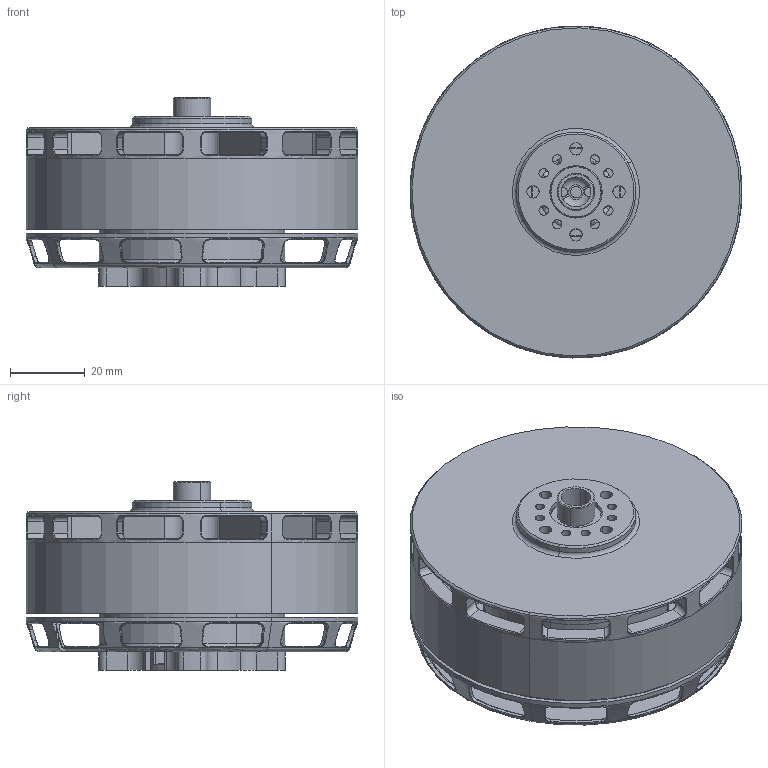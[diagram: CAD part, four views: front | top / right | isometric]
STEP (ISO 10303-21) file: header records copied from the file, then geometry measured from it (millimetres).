
FILE_DESCRIPTION (( 'STEP AP203' ), '1' );
FILE_NAME ('VL8020-勤俋.STEP', '2024-10-11T01:46:56', ( '1' ), ( '' ), 'SwSTEP 2.0', 'SolidWorks 2021', '' );
FILE_SCHEMA (( 'CONFIG_CONTROL_DESIGN' ));
Length unit declared in the file: millimetre
Products named in the file (14): qiangai; EZO 6901 ZZ; VL100-晤鎢ん菁釱-A; VL-棠晤釱; 粣12mm-huangtongdianpian; VL-坶粣菜え; VL8015-hougai-郔笝唳; M12; VL8015-SANRENPIAN; gangzhou-2; V炵蹈隅蔑晤鎢んV2.0; gangquan; 覜茼棠沺; VL8020-勤俋
Assembly tree (14 placements, depth 2):
  VL8020-勤俋
    qiangai
    粣12mm-huangtongdianpian
    EZO 6901 ZZ  x2
    M12
    VL100-晤鎢ん菁釱-A
    VL8015-SANRENPIAN
    VL-棠晤釱
    VL-坶粣菜え
    V炵蹈隅蔑晤鎢んV2.0
    覜茼棠沺
    VL8015-hougai-郔笝唳
    gangquan
    gangzhou-2
Bounding box: 88.78 x 88.78 x 50.5 mm (x, y, z)
Volume: 62662.3 mm3; surface area: 85192.2 mm2
Topology: 61 solids, 61 shells, 3057 faces, 8351 edges, 5082 vertices
Faces by surface type: plane 1039, cylinder 995, bspline 343, sphere 304, torus 286, cone 90
Entity records: 132171 total; most frequent: CARTESIAN_POINT 63487, ORIENTED_EDGE 14904, DIRECTION 12893, EDGE_CURVE 7452, AXIS2_PLACEMENT_3D 4993, VERTEX_POINT 4627, EDGE_LOOP 3067, ADVANCED_FACE 2911
